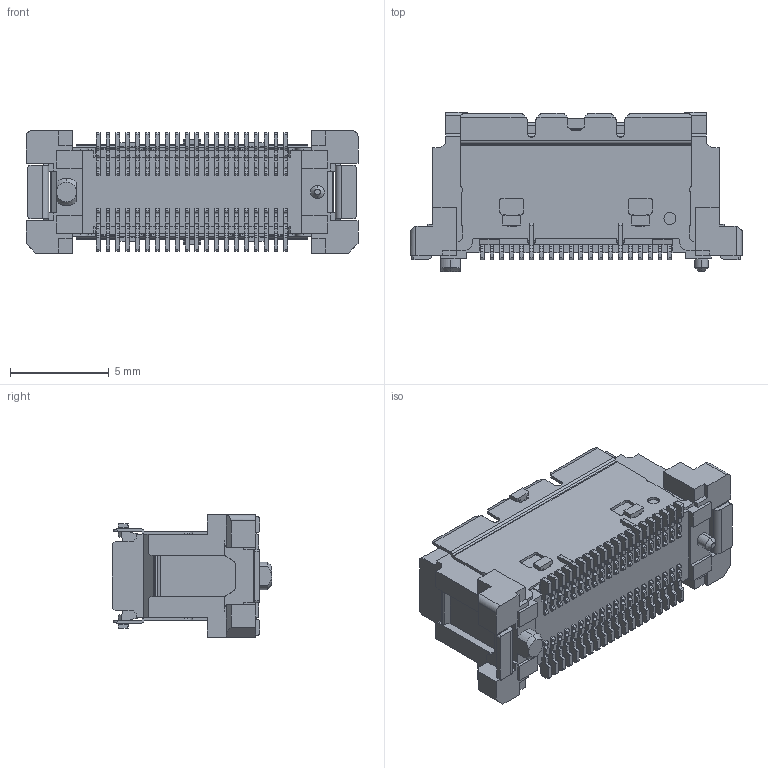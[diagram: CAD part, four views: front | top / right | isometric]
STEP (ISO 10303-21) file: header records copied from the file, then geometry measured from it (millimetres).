
FILE_DESCRIPTION (( 'STEP AP214' ), '1' );
FILE_NAME ('401-55701-5x_3D.STEP', '2018-03-26T11:14:48', ( '' ), ( '' ), 'SwSTEP 2.0', 'SolidWorks 2016', '' );
FILE_SCHEMA (( 'AUTOMOTIVE_DESIGN' ));
Length unit declared in the file: millimetre
Products named in the file (1): 401-55701-5x_3D
Bounding box: 16.8 x 8.05 x 6.2 mm (x, y, z)
Volume: 369.3 mm3; surface area: 830.7 mm2
Topology: 1 solids, 1 shells, 2273 faces, 6667 edges, 4431 vertices
Faces by surface type: plane 1497, cylinder 771, cone 5
Entity records: 100329 total; most frequent: CARTESIAN_POINT 13746, ORIENTED_EDGE 13334, DIRECTION 12540, EDGE_CURVE 6667, LINE 5098, VECTOR 5098, VERTEX_POINT 4431, AXIS2_PLACEMENT_3D 3721
